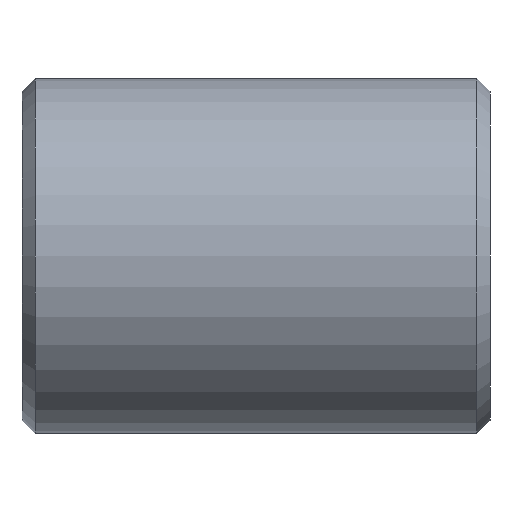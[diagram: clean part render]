
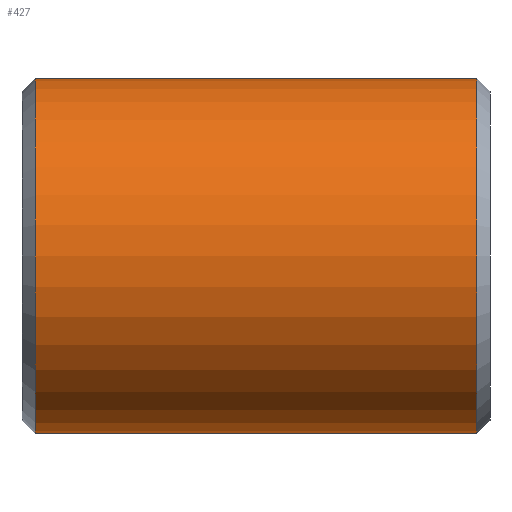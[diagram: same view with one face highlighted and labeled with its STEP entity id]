
A CAD part, front view. The second image highlights one B-rep face of the part: STEP entity #427.
In plain terms, the highlighted cylindrical face has radius 67.5 mm (diameter 135 mm), a partial arc.
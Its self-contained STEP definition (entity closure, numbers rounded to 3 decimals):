
#23 = CARTESIAN_POINT ( 'NONE',  ( 173., 0., -67.5 ) ) ;
#49 = LINE ( 'NONE', #443, #266 ) ;
#93 = DIRECTION ( 'NONE',  ( -1., 0., 0. ) ) ;
#108 = ORIENTED_EDGE ( 'NONE', *, *, #414, .T. ) ;
#118 = ORIENTED_EDGE ( 'NONE', *, *, #388, .F. ) ;
#120 = CARTESIAN_POINT ( 'NONE',  ( 173., 0., 67.5 ) ) ;
#122 = AXIS2_PLACEMENT_3D ( 'NONE', #212, #200, #238 ) ;
#126 = CIRCLE ( 'NONE', #244, 67.5 ) ;
#134 = CARTESIAN_POINT ( 'NONE',  ( 5., 0., -67.5 ) ) ;
#145 = VERTEX_POINT ( 'NONE', #120 ) ;
#149 = AXIS2_PLACEMENT_3D ( 'NONE', #300, #93, #245 ) ;
#150 = ORIENTED_EDGE ( 'NONE', *, *, #283, .T. ) ;
#151 = VECTOR ( 'NONE', #164, 1000. ) ;
#164 = DIRECTION ( 'NONE',  ( -1., 0., 0. ) ) ;
#175 = CARTESIAN_POINT ( 'NONE',  ( 0., 0., -67.5 ) ) ;
#186 = DIRECTION ( 'NONE',  ( -1., 0., 0. ) ) ;
#200 = DIRECTION ( 'NONE',  ( 1., 0., 0. ) ) ;
#202 = FACE_OUTER_BOUND ( 'NONE', #282, .T. ) ;
#209 = LINE ( 'NONE', #175, #151 ) ;
#212 = CARTESIAN_POINT ( 'NONE',  ( 5., 0., 0. ) ) ;
#219 = VERTEX_POINT ( 'NONE', #134 ) ;
#238 = DIRECTION ( 'NONE',  ( 0., 0., -1. ) ) ;
#242 = CYLINDRICAL_SURFACE ( 'NONE', #149, 67.5 ) ;
#244 = AXIS2_PLACEMENT_3D ( 'NONE', #392, #186, #413 ) ;
#245 = DIRECTION ( 'NONE',  ( 0., 0., 1. ) ) ;
#256 = DIRECTION ( 'NONE',  ( -1., 0., 0. ) ) ;
#266 = VECTOR ( 'NONE', #256, 1000. ) ;
#282 = EDGE_LOOP ( 'NONE', ( #118, #150, #108, #297 ) ) ;
#283 = EDGE_CURVE ( 'NONE', #351, #145, #126, .T. ) ;
#297 = ORIENTED_EDGE ( 'NONE', *, *, #428, .T. ) ;
#300 = CARTESIAN_POINT ( 'NONE',  ( 0., 0., 0. ) ) ;
#304 = CIRCLE ( 'NONE', #122, 67.5 ) ;
#351 = VERTEX_POINT ( 'NONE', #23 ) ;
#375 = CARTESIAN_POINT ( 'NONE',  ( 5., 0., 67.5 ) ) ;
#388 = EDGE_CURVE ( 'NONE', #351, #219, #209, .T. ) ;
#392 = CARTESIAN_POINT ( 'NONE',  ( 173., 0., 0. ) ) ;
#407 = VERTEX_POINT ( 'NONE', #375 ) ;
#413 = DIRECTION ( 'NONE',  ( 0., 0., 1. ) ) ;
#414 = EDGE_CURVE ( 'NONE', #145, #407, #49, .T. ) ;
#427 = ADVANCED_FACE ( 'NONE', ( #202 ), #242, .T. ) ;
#428 = EDGE_CURVE ( 'NONE', #407, #219, #304, .T. ) ;
#443 = CARTESIAN_POINT ( 'NONE',  ( 0., 0., 67.5 ) ) ;
